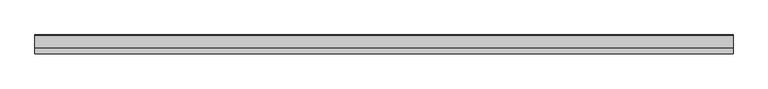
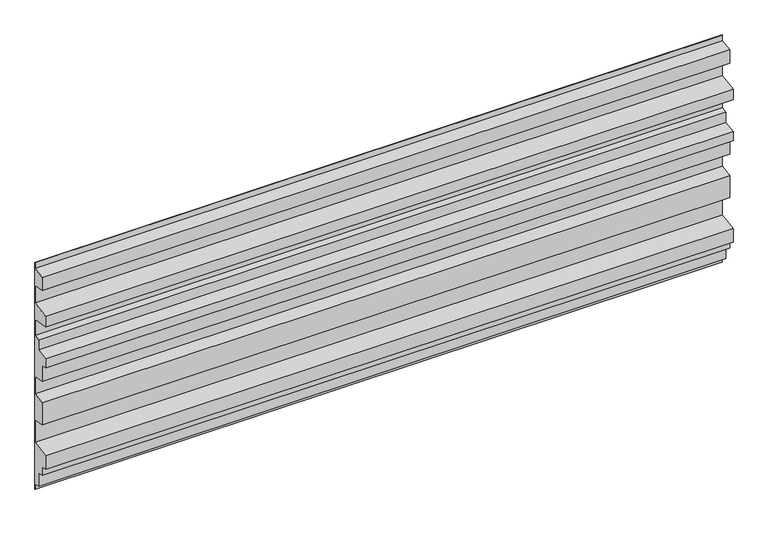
"""IFC4 building model written with IfcOpenShell, lengths in millimetres: plate geometry, ATELIERS 3S_NEW YORK MANHATTAN 780_HORIZONTAL : AZURO."""

from ifc_helpers import new_model, si_unit, frame, origin, place, context, project, spatial, polyline, outline, extrude, source, transform, mapped, element, save


def plate_a7e1d6f4(model_context):
    return source(origin(), model_context, "Body", "SweptSolid", [
        extrude(outline(polyline([(-40.75, 752.9516131), (-0.8, 759.995876), (-0.8, 780.0), (0.0, 780.0), (0.0, 0.0), (-0.8, 0.0), (-0.8, 19.6941775), (-20.7501589, 23.211221), (-20.7501589, 68.2118488), (-40.7500015, 71.7384174), (-40.7500015, 101.7384166), (-60.7500001, 105.2649565), (-60.7500001, 150.8942812), (-0.75, 161.4739), (-0.75, 238.8445753), (-40.75, 245.8976546), (-40.75, 321.5269793), (-0.75, 328.5800585), (-0.75, 387.9507338), (-40.75, 395.003813), (-40.75, 450.003813), (-60.75, 453.5303526), (-60.75, 484.1596773), (-20.75, 491.2127566), (-20.75, 526.2127566), (-0.75, 529.7392962), (-0.75, 584.1099715), (-60.75, 594.6895903), (-60.75, 630.318915), (-0.75, 640.8985339), (-0.75, 700.2692092), (-40.75, 707.3222884), (-40.75, 752.9516131)])), frame((-1116.75, 0.0, 0.0), z_axis=(1.0, 0.0, 0.0), x_axis=(0.0, 1.0, 0.0)), (0.0, 0.0, 1.0), 2233.5),
    ])


if __name__ == "__main__":
    model = new_model("IFC4")
    model_context = context("Model", 3, world=origin())
    ifc_project = project(units=[si_unit("LENGTHUNIT", "METRE", prefix="MILLI")], contexts=[model_context])
    site = spatial("IfcSite", under=ifc_project)
    building = spatial("IfcBuilding", under=site)
    placement = place(None, origin())
    plate_shape = plate_a7e1d6f4(model_context)
    element("IfcPlate", 1, ObjectType="ATELIERS 3S_NEW YORK MANHATTAN 780_HORIZONTAL : AZURO", at=placement, inside=building, context=model_context, shape_type="MappedRepresentation", body=[
        mapped(plate_shape, transform((0.0, 0.0, 0.0), x_axis=(1.0, 0.0, 0.0), y_axis=(0.0, 1.0, 0.0), z_axis=(0.0, 0.0, 1.0))),
    ])
    save(model, "model.ifc")
